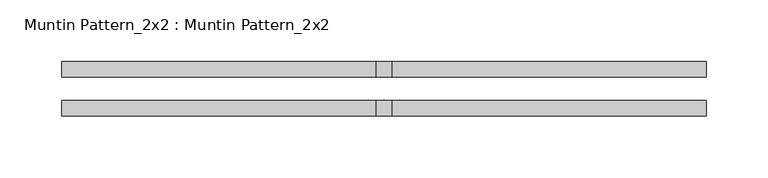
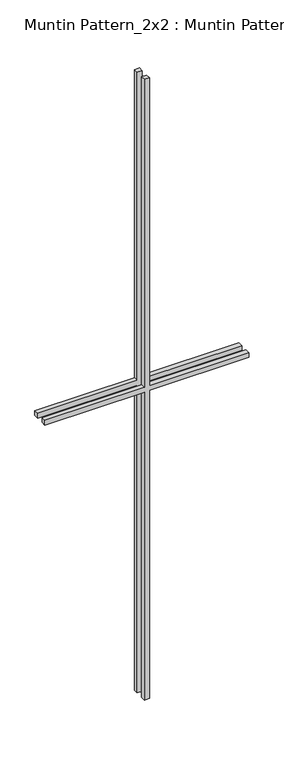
"""IFC4 building model written with IfcOpenShell, lengths in millimetres: proxy geometry, Muntin Pattern_2x2 : Muntin Pattern_2x2."""

from ifc_helpers import new_model, si_unit, frame, origin, place, context, project, spatial, polyline, outline, extrude, source, transform, mapped, element, save


def muntin_pattern_2x2_muntin_pattern_2x2_644b7d62(model_context):
    return source(origin(), model_context, "Body", "SweptSolid", [
        extrude(outline(polyline([(847.725, -6.35), (847.725, -261.9375), (835.025, -261.9375), (835.025, -6.35), (0.0, -6.35), (0.0, 6.35), (835.025, 6.35), (835.025, 261.9375), (847.725, 261.9375), (847.725, 6.35), (1682.75, 6.35), (1682.75, -6.35), (847.725, -6.35)])), frame((0.0, -22.225, 0.0), z_axis=(0.0, 1.0, 0.0), x_axis=(0.0, 0.0, 1.0)), (0.0, 0.0, 1.0), 12.7),
        extrude(outline(polyline([(847.725, -6.35), (847.725, -261.9375), (835.025, -261.9375), (835.025, -6.35), (0.0, -6.35), (0.0, 6.35), (835.025, 6.35), (835.025, 261.9375), (847.725, 261.9375), (847.725, 6.35), (1682.75, 6.35), (1682.75, -6.35), (847.725, -6.35)])), frame((0.0, 9.525, 0.0), z_axis=(0.0, 1.0, 0.0), x_axis=(0.0, 0.0, 1.0)), (0.0, 0.0, 1.0), 12.7),
    ])


if __name__ == "__main__":
    model = new_model("IFC4")
    model_context = context("Model", 3, world=origin())
    ifc_project = project(units=[si_unit("LENGTHUNIT", "METRE", prefix="MILLI")], contexts=[model_context])
    site = spatial("IfcSite", under=ifc_project)
    building = spatial("IfcBuilding", under=site)
    placement = place(None, origin())
    muntin_pattern_2x2_muntin_pattern_2x2_shape = muntin_pattern_2x2_muntin_pattern_2x2_644b7d62(model_context)
    element("IfcBuildingElementProxy", 1, Name="Muntin Pattern_2x2 : Muntin Pattern_2x2", ObjectType="Muntin Pattern_2x2 : Muntin Pattern_2x2", at=placement, inside=building, context=model_context, shape_type="MappedRepresentation", body=[
        mapped(muntin_pattern_2x2_muntin_pattern_2x2_shape, transform((0.0, 0.0, 0.0), x_axis=(1.0, 0.0, 0.0), y_axis=(0.0, 1.0, 0.0), z_axis=(0.0, 0.0, 1.0))),
    ])
    save(model, "model.ifc")
